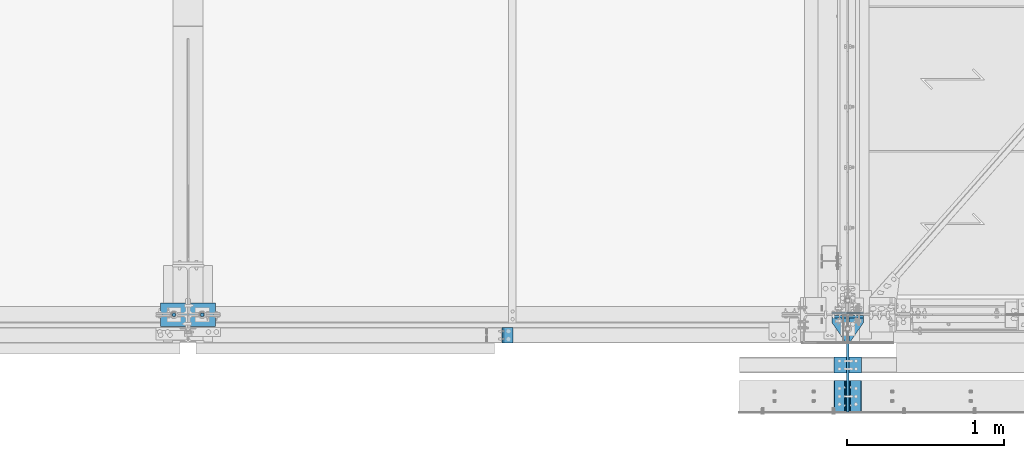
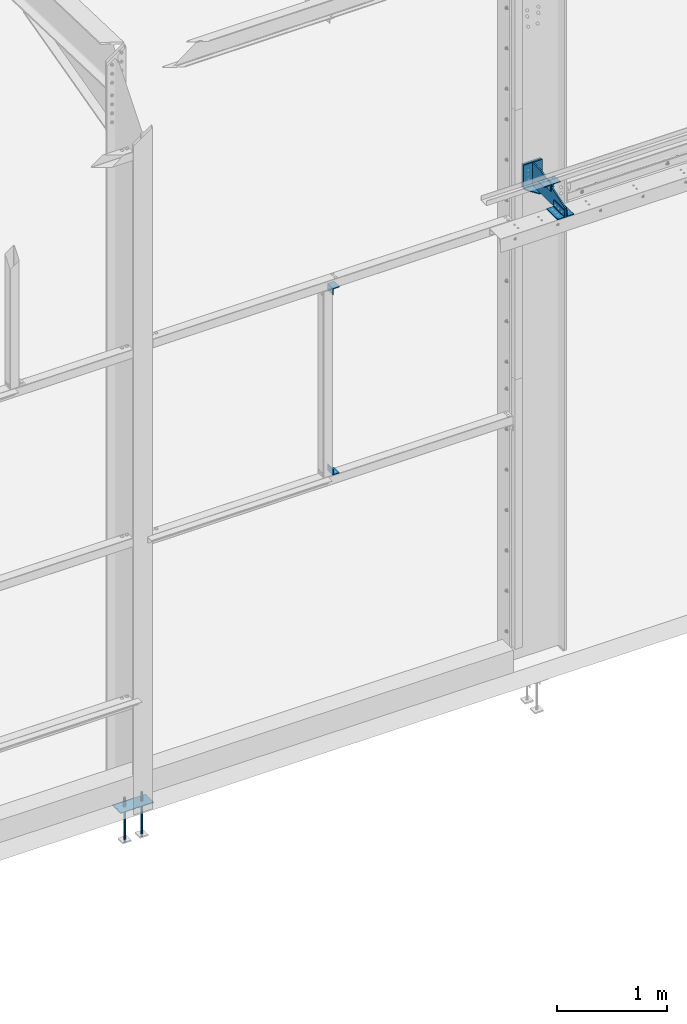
# One storey, part 67 of 362: 15 beams, 9 elements without a shape of their own.
"""IFC2X3 building model written with IfcOpenShell, lengths in millimetres."""

from ifc_helpers import new_model, si_unit, frame, origin_with_axes, origin_2d_with_axis, place, context, subcontext, project, spatial, polyline, rectangle, circle, l_section, outline, extrude, boolean, material, type_object, element, aggregate, save


model = new_model("IFC2X3")

# Units and contexts
model_context = context("Model", 3, precision=1e-05, world=origin_with_axes())
body_context = subcontext(model_context, "Body", "Model", "MODEL_VIEW")
ifc_project = project(units=[si_unit("LENGTHUNIT", "METRE", prefix="MILLI"), si_unit("AREAUNIT", "SQUARE_METRE"), si_unit("VOLUMEUNIT", "CUBIC_METRE"), si_unit("MASSUNIT", "GRAM", prefix="KILO"), si_unit("TIMEUNIT", "SECOND"), si_unit("PLANEANGLEUNIT", "RADIAN"), si_unit("SOLIDANGLEUNIT", "STERADIAN"), si_unit("THERMODYNAMICTEMPERATUREUNIT", "DEGREE_CELSIUS"), si_unit("LUMINOUSINTENSITYUNIT", "LUMEN")], contexts=[model_context])

# Site, building, storey
site_placement = place(None, origin_with_axes())
site = spatial("IfcSite", under=ifc_project, at=site_placement, Name="Undefined", CompositionType="ELEMENT")
building_placement = place(site_placement, origin_with_axes())
building = spatial("IfcBuilding", under=site, at=building_placement, Name="Undefined", CompositionType="ELEMENT")
storey_placement = place(building_placement, origin_with_axes())
storey = spatial("IfcBuildingStorey", under=building, at=storey_placement, Name="Undefined", CompositionType="ELEMENT", Elevation=0.0)

# Assembly, beam
assembly_1_placement = place(storey_placement, origin_with_axes())
assembly_1 = element("IfcElementAssembly", 1, at=assembly_1_placement, inside=storey, Name="CONTRE PLATINE", AssemblyPlace="NOTDEFINED", PredefinedType="NOTDEFINED")
ifc_material = material(Name="Undefined/S235-E24")
beam_type_1 = type_object("IfcBeamType", Name="PL10*200", PredefinedType="NOTDEFINED")
beam_1_placement = place(assembly_1_placement, frame((12680.0, 11.0084493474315, 5479.99824538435), z_axis=(1.0, 0.0, 0.0), x_axis=(0.0, 0.0, -1.0)))
beam_1 = element("IfcBeam", 2, at=beam_1_placement, type_object=beam_type_1, material=ifc_material, Name="CONTRE PLATINE", ObjectType="PL10*200", context=body_context, shape_type="SweptSolid", body=[
    extrude(rectangle(XDim=10.0, YDim=200.0, at=origin_2d_with_axis()), frame((264.997552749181, 0.0, 0.0), z_axis=(-1.0, 0.0, 0.0), x_axis=(0.0, -1.0, 0.0)), (0.0, 0.0, 1.0), 265.0),
])
aggregate(assembly_1, [beam_1])

assembly_2_placement = place(storey_placement, origin_with_axes())
assembly_2 = element("IfcElementAssembly", 3, at=assembly_2_placement, inside=storey, AssemblyPlace="NOTDEFINED", PredefinedType="NOTDEFINED")
beam_type_2 = type_object("IfcBeamType", Name="L80*8", PredefinedType="NOTDEFINED")
beam_2_placement = place(assembly_2_placement, frame((12727.4921676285, -270.0, 5409.99824538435), z_axis=(0.0, 0.0, -1.0), x_axis=(0.0, -1.0, 0.0)))
beam_2 = element("IfcBeam", 4, at=beam_2_placement, type_object=beam_type_2, material=ifc_material, Name="ATTACHE", ObjectType="L80*8", context=body_context, shape_type="SweptSolid", body=[
    extrude(l_section(Depth=80.0, Width=80.0, Thickness=8.0, FilletRadius=10.0, EdgeRadius=5.0, at=origin_2d_with_axis()), frame((99.9999999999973, -1.63709046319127e-11, 7.73070496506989e-12), z_axis=(-1.0, 0.0, 0.0), x_axis=(0.0, -1.0, 0.0)), (0.0, 0.0, 1.0), 100.0),
])
aggregate(assembly_2, [beam_2])

assembly_3_placement = place(storey_placement, origin_with_axes())
assembly_3 = element("IfcElementAssembly", 5, at=assembly_3_placement, inside=storey, AssemblyPlace="NOTDEFINED", PredefinedType="NOTDEFINED")
beam_3_placement = place(assembly_3_placement, frame((12632.5, -370.0, 5409.99824538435), z_axis=(0.0, 0.0, -1.0), x_axis=(0.0, 1.0, 0.0)))
beam_3 = element("IfcBeam", 6, at=beam_3_placement, type_object=beam_type_2, material=ifc_material, Name="ATTACHE", ObjectType="L80*8", context=body_context, shape_type="SweptSolid", body=[
    extrude(l_section(Depth=80.0, Width=80.0, Thickness=8.0, FilletRadius=10.0, EdgeRadius=5.0, at=origin_2d_with_axis()), frame((99.9999999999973, -1.63709046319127e-11, 7.73070496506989e-12), z_axis=(-1.0, 0.0, 0.0), x_axis=(0.0, -1.0, 0.0)), (0.0, 0.0, 1.0), 100.0),
])
aggregate(assembly_3, [beam_3])

assembly_4_placement = place(storey_placement, origin_with_axes())
assembly_4 = element("IfcElementAssembly", 7, at=assembly_4_placement, inside=storey, AssemblyPlace="NOTDEFINED", PredefinedType="NOTDEFINED")
beam_4_placement = place(assembly_4_placement, frame((12727.4921676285, -620.0, 5269.99824538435), z_axis=(0.0, 0.0, 1.0), x_axis=(0.0, 1.0, 0.0)))
beam_4 = element("IfcBeam", 8, at=beam_4_placement, type_object=beam_type_2, material=ifc_material, Name="ATTACHE", ObjectType="L80*8", context=body_context, shape_type="SweptSolid", body=[
    extrude(l_section(Depth=80.0, Width=80.0, Thickness=8.0, FilletRadius=10.0, EdgeRadius=5.0, at=origin_2d_with_axis()), frame((200.0, 0.0, 0.0), z_axis=(-1.0, 0.0, 0.0), x_axis=(0.0, -1.0, 0.0)), (0.0, 0.0, 1.0), 200.0),
])
aggregate(assembly_4, [beam_4])

assembly_5_placement = place(storey_placement, origin_with_axes())
assembly_5 = element("IfcElementAssembly", 9, at=assembly_5_placement, inside=storey, AssemblyPlace="NOTDEFINED", PredefinedType="NOTDEFINED")
beam_5_placement = place(assembly_5_placement, frame((12632.5, -420.0, 5269.99824538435), z_axis=(0.0, 0.0, 1.0), x_axis=(0.0, -1.0, 0.0)))
beam_5 = element("IfcBeam", 10, at=beam_5_placement, type_object=beam_type_2, material=ifc_material, Name="ATTACHE", ObjectType="L80*8", context=body_context, shape_type="SweptSolid", body=[
    extrude(l_section(Depth=80.0, Width=80.0, Thickness=8.0, FilletRadius=10.0, EdgeRadius=5.0, at=origin_2d_with_axis()), frame((200.0, 0.0, 0.0), z_axis=(-1.0, 0.0, 0.0), x_axis=(0.0, -1.0, 0.0)), (0.0, 0.0, 1.0), 200.0),
])
aggregate(assembly_5, [beam_5])

# Assembly, beams
assembly_6_placement = place(storey_placement, origin_with_axes())
assembly_6 = element("IfcElementAssembly", 11, at=assembly_6_placement, inside=storey, Name="CONSOLE", AssemblyPlace="NOTDEFINED", PredefinedType="NOTDEFINED")
beam_type_3 = type_object("IfcBeamType", Name="TOLE10*149", PredefinedType="NOTDEFINED")
beam_6_placement = place(assembly_6_placement, frame((12580.0, -20.9999999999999, 5224.99824534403), z_axis=(0.0, 0.0, 1.0), x_axis=(0.0, -1.0, 0.0)))
beam_6 = element("IfcBeam", 12, at=beam_6_placement, type_object=beam_type_3, material=ifc_material, Name="RAIDISSEUR", ObjectType="TOLE10*149", context=body_context, shape_type="SweptSolid", body=[
    extrude(outline(polyline([(0.0, 0.0), (30.0, 0.0), (149.0, 82.5), (149.0, 117.5), (30.0, 200.0), (0.0, 200.0), (0.0, 0.0)])), frame((0.0, 0.0, -5.0), z_axis=(0.0, 0.0, 1.0), x_axis=(1.0, 0.0, 0.0)), (0.0, 0.0, 1.0), 10.0),
])
beam_type_4 = type_object("IfcBeamType", Name="PL15*200", PredefinedType="NOTDEFINED")
beam_7_placement = place(assembly_6_placement, frame((12680.0, -13.4999999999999, 5479.99824538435), z_axis=(1.0, 0.0, 0.0), x_axis=(0.0, 0.0, -1.0)))
beam_7 = element("IfcBeam", 13, at=beam_7_placement, type_object=beam_type_4, material=ifc_material, Name="PLATINE", ObjectType="PL15*200", context=body_context, shape_type="SweptSolid", body=[
    extrude(rectangle(XDim=15.0, YDim=200.0, at=origin_2d_with_axis()), frame((264.997552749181, 0.0, 0.0), z_axis=(-1.0, 0.0, 0.0), x_axis=(0.0, -1.0, 0.0)), (0.0, 0.0, 1.0), 265.0),
])
beam_type_5 = type_object("IfcBeamType", Name="TOLE15*250", PredefinedType="NOTDEFINED")
beam_8_placement = place(assembly_6_placement, frame((12680.0, -620.0, 5229.99824538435), z_axis=(-1.0, 0.0, 0.0), x_axis=(0.0, 0.0, 1.0)))
beam_8 = element("IfcBeam", 14, at=beam_8_placement, type_object=beam_type_5, material=ifc_material, Name="CONSOLE", ObjectType="TOLE15*250", context=body_context, shape_type="SweptSolid", body=[
    extrude(outline(polyline([(0.0, 0.0), (100.0, 0.0), (250.0, 450.0), (250.0, 599.0), (19.9999999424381, 599.0), (-5.56399857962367e-08, 579.0), (0.0, 0.0)])), frame((0.0, 0.0, -7.5), z_axis=(0.0, 0.0, 1.0), x_axis=(1.0, 0.0, 0.0)), (0.0, 0.0, 1.0), 15.0),
])
aggregate(assembly_6, [beam_6, beam_7, beam_8])

# Assembly, beam
assembly_7_placement = place(storey_placement, origin_with_axes())
assembly_7 = element("IfcElementAssembly", 15, at=assembly_7_placement, inside=storey, AssemblyPlace="NOTDEFINED", PredefinedType="NOTDEFINED")
beam_type_6 = type_object("IfcBeamType", Name="L70*7", PredefinedType="NOTDEFINED")
beam_9_placement = place(assembly_7_placement, frame((10515.0, -80.0000086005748, 4905.0), z_axis=(0.0, 0.0, -1.0), x_axis=(0.0, -1.0, 0.0)))
beam_9 = element("IfcBeam", 16, at=beam_9_placement, type_object=beam_type_6, material=ifc_material, Name="ATTACHE", ObjectType="L70*7", context=body_context, shape_type="SweptSolid", body=[
    extrude(l_section(Depth=70.0, Width=70.0, Thickness=7.0, FilletRadius=9.0, EdgeRadius=4.5, at=origin_2d_with_axis()), frame((99.9999999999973, -1.63709046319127e-11, 7.73070496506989e-12), z_axis=(-1.0, 0.0, 0.0), x_axis=(0.0, -1.0, 0.0)), (0.0, 0.0, 1.0), 100.0),
])
aggregate(assembly_7, [beam_9])

assembly_8_placement = place(storey_placement, origin_with_axes())
assembly_8 = element("IfcElementAssembly", 17, at=assembly_8_placement, inside=storey, AssemblyPlace="NOTDEFINED", PredefinedType="NOTDEFINED")
beam_10_placement = place(assembly_8_placement, frame((10514.999999, -180.000008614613, 2895.0), z_axis=(0.0, 0.0, 1.0), x_axis=(0.0, 1.0, 0.0)))
beam_10 = element("IfcBeam", 18, at=beam_10_placement, type_object=beam_type_6, material=ifc_material, Name="ATTACHE", ObjectType="L70*7", context=body_context, shape_type="SweptSolid", body=[
    extrude(l_section(Depth=70.0, Width=70.0, Thickness=7.0, FilletRadius=9.0, EdgeRadius=4.5, at=origin_2d_with_axis()), frame((99.9999999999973, -1.63709046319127e-11, 7.73070496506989e-12), z_axis=(-1.0, 0.0, 0.0), x_axis=(0.0, -1.0, 0.0)), (0.0, 0.0, 1.0), 100.0),
])
aggregate(assembly_8, [beam_10])

# Assembly, beams
assembly_9_placement = place(storey_placement, origin_with_axes())
assembly_9 = element("IfcElementAssembly", 19, at=assembly_9_placement, inside=storey, Name="PRESCELLEMENT PS24", AssemblyPlace="NOTDEFINED", PredefinedType="NOTDEFINED")
beam_type_7 = type_object("IfcBeamType", Name="D24", PredefinedType="NOTDEFINED")
beam_11_placement = place(assembly_9_placement, frame((8389.99715044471, 0.0, -100.0), z_axis=(0.0, 1.0, 0.0), x_axis=(0.0, 0.0, -1.0)))
beam_11 = element("IfcBeam", 20, at=beam_11_placement, type_object=beam_type_7, material=ifc_material, Name="TIGE D'ANCRAGE", ObjectType="D24", context=body_context, shape_type="SweptSolid", body=[
    extrude(circle(Radius=12.0, at=origin_2d_with_axis()), frame((150.0, 0.0, 0.0), z_axis=(-1.0, 0.0, 0.0), x_axis=(0.0, -1.0, 0.0)), (0.0, 0.0, 1.0), 150.0),
])
beam_12_placement = place(assembly_9_placement, frame((8569.99715044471, 0.0, -100.0), z_axis=(0.0, 1.0, 0.0), x_axis=(0.0, 0.0, -1.0)))
beam_12 = element("IfcBeam", 21, at=beam_12_placement, type_object=beam_type_7, material=ifc_material, Name="TIGE D'ANCRAGE", ObjectType="D24", context=body_context, shape_type="SweptSolid", body=[
    extrude(circle(Radius=12.0, at=origin_2d_with_axis()), frame((150.0, 0.0, 0.0), z_axis=(-1.0, 0.0, 0.0), x_axis=(0.0, -1.0, 0.0)), (0.0, 0.0, 1.0), 150.0),
])
beam_type_8 = type_object("IfcBeamType", Name="D22", PredefinedType="NOTDEFINED")
beam_13_placement = place(assembly_9_placement, frame((8389.99715044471, 0.0, -250.0), z_axis=(0.0, 1.0, 0.0), x_axis=(0.0, 0.0, -1.0)))
beam_13 = element("IfcBeam", 22, at=beam_13_placement, type_object=beam_type_8, material=ifc_material, Name="TIGE D'ANCRAGE", ObjectType="D22", context=body_context, shape_type="SweptSolid", body=[
    extrude(circle(Radius=11.0, at=origin_2d_with_axis()), frame((350.0, 0.0, 0.0), z_axis=(-1.0, 0.0, 0.0), x_axis=(0.0, -1.0, 0.0)), (0.0, 0.0, 1.0), 350.0),
])
beam_14_placement = place(assembly_9_placement, frame((8569.99715044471, 0.0, -250.0), z_axis=(0.0, 1.0, 0.0), x_axis=(0.0, 0.0, -1.0)))
beam_14 = element("IfcBeam", 23, at=beam_14_placement, type_object=beam_type_8, material=ifc_material, Name="TIGE D'ANCRAGE", ObjectType="D22", context=body_context, shape_type="SweptSolid", body=[
    extrude(circle(Radius=11.0, at=origin_2d_with_axis()), frame((350.0, 0.0, 0.0), z_axis=(-1.0, 0.0, 0.0), x_axis=(0.0, -1.0, 0.0)), (0.0, 0.0, 1.0), 350.0),
])
beam_type_9 = type_object("IfcBeamType", Name="PL10*150", PredefinedType="NOTDEFINED")
beam_15_placement = place(assembly_9_placement, frame((8655.0, 0.0, -205.0), z_axis=(0.0, -1.0, 0.0), x_axis=(-1.0, 0.0, 0.0)))
beam_15 = element("IfcBeam", 24, at=beam_15_placement, type_object=beam_type_9, material=ifc_material, Name="PRESCELLEMENT PS24", ObjectType="PL10*150", context=body_context, shape_type="CSG", body=[
    boolean("DIFFERENCE", boolean("DIFFERENCE", boolean("DIFFERENCE", boolean("DIFFERENCE", extrude(rectangle(XDim=10.0, YDim=150.0, at=origin_2d_with_axis()), frame((350.0, 0.0, 0.0), z_axis=(-1.0, 0.0, 0.0), x_axis=(0.0, -1.0, 0.0)), (0.0, 0.0, 1.0), 350.0), extrude(outline(polyline([(0.0, 0.0), (11.1803398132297, 1.2732925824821e-11), (4.47213602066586, 8.94427204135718), (0.0, 0.0)])), frame((0.0, 7.5, -5.0), z_axis=(0.0, -1.0, 0.0), x_axis=(0.894427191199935, 0.0, 0.44721359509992)), (0.0, 0.0, 1.0), 15.0)), extrude(outline(polyline([(0.0, 0.0), (11.1803398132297, 1.2732925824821e-11), (4.47213602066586, 8.94427204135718), (0.0, 0.0)])), frame((180.0, 7.5, -75.0), z_axis=(0.0, -1.0, 0.0), x_axis=(-0.447213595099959, 0.0, 0.894427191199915)), (0.0, 0.0, 1.0), 15.0)), extrude(outline(polyline([(0.0, 0.0), (11.1803398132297, 1.2732925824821e-11), (6.70820379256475, 8.94427204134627), (0.0, 0.0)])), frame((340.0, 7.5, 0.0), z_axis=(0.0, -1.0, 0.0), x_axis=(0.894427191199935, 0.0, -0.44721359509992)), (0.0, 0.0, 1.0), 15.0)), extrude(outline(polyline([(0.0, 0.0), (11.1803398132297, 1.2732925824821e-11), (4.47213602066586, 8.94427204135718), (0.0, 0.0)])), frame((170.0, 7.5, 75.0), z_axis=(0.0, -1.0, 0.0), x_axis=(0.447213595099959, 0.0, -0.894427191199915)), (0.0, 0.0, 1.0), 15.0)),
])
aggregate(assembly_9, [beam_11, beam_13, beam_12, beam_14, beam_15])

save(model, "model.ifc")
